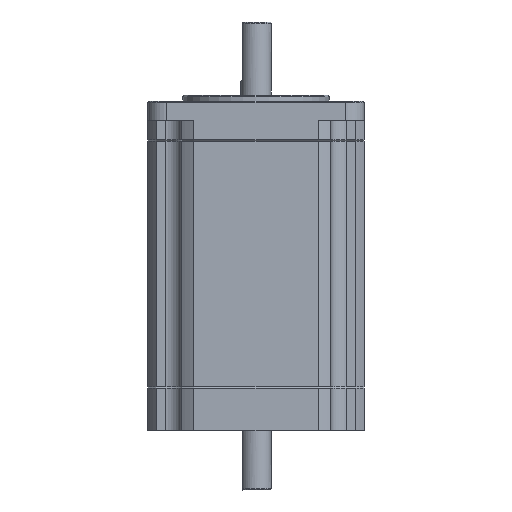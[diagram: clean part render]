
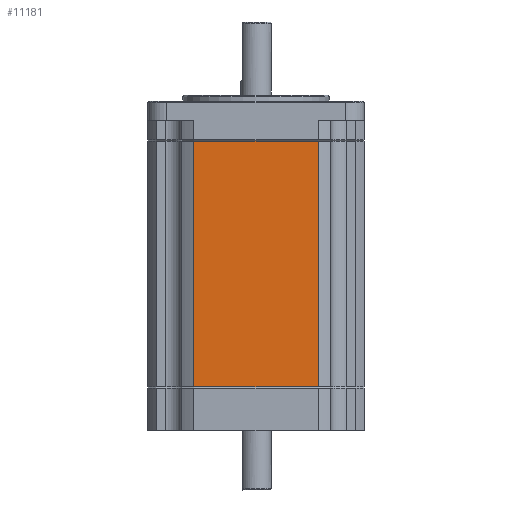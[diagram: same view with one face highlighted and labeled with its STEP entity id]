
A CAD part, front view. The second image highlights one B-rep face of the part: STEP entity #11181.
In plain terms, the highlighted planar face has unit normal (0, -1, 0).
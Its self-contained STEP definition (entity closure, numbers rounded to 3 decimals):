
#126 = VECTOR ( 'NONE', #17839, 1000. ) ;
#478 = VERTEX_POINT ( 'NONE', #2894 ) ;
#608 = CARTESIAN_POINT ( 'NONE',  ( -16.156, -28.2, 0. ) ) ;
#947 = ORIENTED_EDGE ( 'NONE', *, *, #17000, .T. ) ;
#1118 = CARTESIAN_POINT ( 'NONE',  ( -16.156, -28.2, 0. ) ) ;
#1498 = ORIENTED_EDGE ( 'NONE', *, *, #16345, .T. ) ;
#1739 = DIRECTION ( 'NONE',  ( 0., 0., -1. ) ) ;
#2112 = LINE ( 'NONE', #10423, #13778 ) ;
#2894 = CARTESIAN_POINT ( 'NONE',  ( 16.156, -28.2, -64. ) ) ;
#3442 = CARTESIAN_POINT ( 'NONE',  ( 16.156, -28.2, 0. ) ) ;
#4862 = VECTOR ( 'NONE', #7410, 1000. ) ;
#4919 = EDGE_CURVE ( 'NONE', #12547, #478, #8331, .T. ) ;
#4925 = DIRECTION ( 'NONE',  ( 0., -1., 0. ) ) ;
#6381 = VERTEX_POINT ( 'NONE', #8626 ) ;
#7410 = DIRECTION ( 'NONE',  ( -1., 0., 0. ) ) ;
#8331 = LINE ( 'NONE', #12927, #14811 ) ;
#8626 = CARTESIAN_POINT ( 'NONE',  ( -16.156, -28.2, -64. ) ) ;
#9087 = LINE ( 'NONE', #608, #4862 ) ;
#9100 = PLANE ( 'NONE',  #12012 ) ;
#9540 = ORIENTED_EDGE ( 'NONE', *, *, #16006, .T. ) ;
#10234 = FACE_OUTER_BOUND ( 'NONE', #18134, .T. ) ;
#10405 = VERTEX_POINT ( 'NONE', #1118 ) ;
#10423 = CARTESIAN_POINT ( 'NONE',  ( 0., -28.2, -64. ) ) ;
#11181 = ADVANCED_FACE ( 'NONE', ( #10234 ), #9100, .T. ) ;
#12012 = AXIS2_PLACEMENT_3D ( 'NONE', #13498, #4925, #1739 ) ;
#12132 = LINE ( 'NONE', #12221, #126 ) ;
#12221 = CARTESIAN_POINT ( 'NONE',  ( -16.156, -28.2, -64. ) ) ;
#12547 = VERTEX_POINT ( 'NONE', #3442 ) ;
#12736 = DIRECTION ( 'NONE',  ( 0., 0., -1. ) ) ;
#12927 = CARTESIAN_POINT ( 'NONE',  ( 16.156, -28.2, -64. ) ) ;
#12979 = ORIENTED_EDGE ( 'NONE', *, *, #4919, .F. ) ;
#13498 = CARTESIAN_POINT ( 'NONE',  ( -16.156, -28.2, -64. ) ) ;
#13778 = VECTOR ( 'NONE', #16129, 1000. ) ;
#14811 = VECTOR ( 'NONE', #12736, 1000. ) ;
#16006 = EDGE_CURVE ( 'NONE', #6381, #478, #2112, .T. ) ;
#16129 = DIRECTION ( 'NONE',  ( 1., 0., 0. ) ) ;
#16345 = EDGE_CURVE ( 'NONE', #12547, #10405, #9087, .T. ) ;
#17000 = EDGE_CURVE ( 'NONE', #10405, #6381, #12132, .T. ) ;
#17839 = DIRECTION ( 'NONE',  ( 0., 0., -1. ) ) ;
#18134 = EDGE_LOOP ( 'NONE', ( #9540, #12979, #1498, #947 ) ) ;
